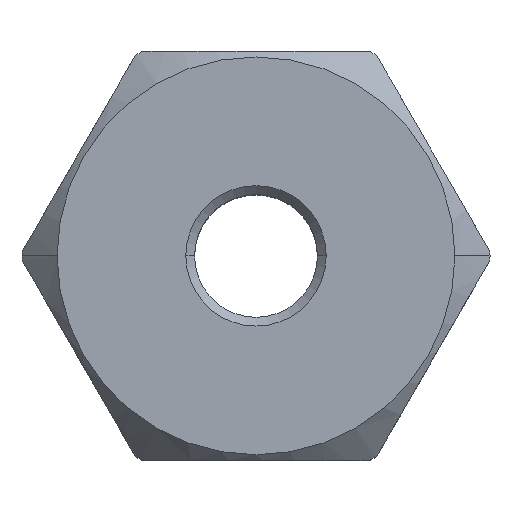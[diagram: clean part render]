
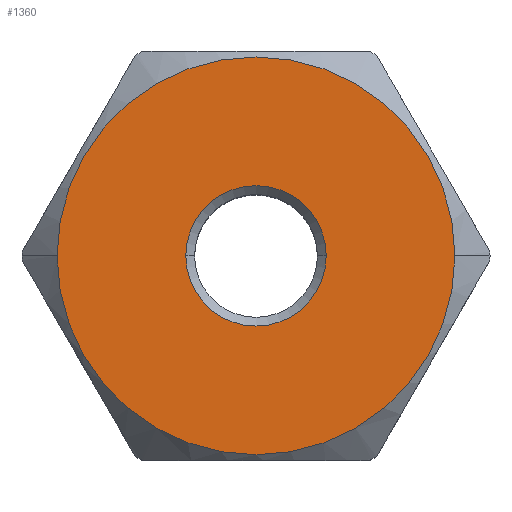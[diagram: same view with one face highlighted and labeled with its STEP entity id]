
A CAD part, top view. The second image highlights one B-rep face of the part: STEP entity #1360.
In plain terms, the highlighted planar face has unit normal (0, 0, 1).
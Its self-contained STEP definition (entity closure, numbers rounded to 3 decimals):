
#46 = VERTEX_POINT ( 'NONE', #1414 ) ;
#141 = FACE_BOUND ( 'NONE', #1717, .T. ) ;
#283 = VERTEX_POINT ( 'NONE', #2344 ) ;
#365 = DIRECTION ( 'NONE',  ( 0., 0., -1. ) ) ;
#366 = DIRECTION ( 'NONE',  ( 0., 0., 1. ) ) ;
#506 = VERTEX_POINT ( 'NONE', #844 ) ;
#705 = CIRCLE ( 'NONE', #793, 6.8 ) ;
#717 = AXIS2_PLACEMENT_3D ( 'NONE', #1752, #365, #2375 ) ;
#731 = CARTESIAN_POINT ( 'NONE',  ( 0., 0., 0. ) ) ;
#746 = FACE_OUTER_BOUND ( 'NONE', #898, .T. ) ;
#793 = AXIS2_PLACEMENT_3D ( 'NONE', #2389, #2021, #819 ) ;
#819 = DIRECTION ( 'NONE',  ( 1., 0., 0. ) ) ;
#844 = CARTESIAN_POINT ( 'NONE',  ( 2.4, 0., 0. ) ) ;
#898 = EDGE_LOOP ( 'NONE', ( #1316, #1006 ) ) ;
#956 = DIRECTION ( 'NONE',  ( 0., 0., -1. ) ) ;
#970 = EDGE_CURVE ( 'NONE', #506, #1513, #2491, .T. ) ;
#1006 = ORIENTED_EDGE ( 'NONE', *, *, #2443, .T. ) ;
#1023 = AXIS2_PLACEMENT_3D ( 'NONE', #2541, #1565, #1928 ) ;
#1184 = DIRECTION ( 'NONE',  ( 1., 0., 0. ) ) ;
#1260 = CIRCLE ( 'NONE', #1353, 2.4 ) ;
#1316 = ORIENTED_EDGE ( 'NONE', *, *, #2292, .T. ) ;
#1334 = PLANE ( 'NONE',  #1023 ) ;
#1353 = AXIS2_PLACEMENT_3D ( 'NONE', #731, #956, #1534 ) ;
#1360 = ADVANCED_FACE ( 'NONE', ( #141, #746 ), #1334, .T. ) ;
#1363 = EDGE_CURVE ( 'NONE', #1513, #506, #1260, .T. ) ;
#1414 = CARTESIAN_POINT ( 'NONE',  ( -6.8, 0., 0. ) ) ;
#1450 = ORIENTED_EDGE ( 'NONE', *, *, #970, .T. ) ;
#1513 = VERTEX_POINT ( 'NONE', #1764 ) ;
#1534 = DIRECTION ( 'NONE',  ( 1., 0., 0. ) ) ;
#1565 = DIRECTION ( 'NONE',  ( 0., 0., 1. ) ) ;
#1717 = EDGE_LOOP ( 'NONE', ( #1450, #2515 ) ) ;
#1752 = CARTESIAN_POINT ( 'NONE',  ( 0., 0., 0. ) ) ;
#1764 = CARTESIAN_POINT ( 'NONE',  ( -2.4, 0., 0. ) ) ;
#1928 = DIRECTION ( 'NONE',  ( 1., 0., 0. ) ) ;
#2021 = DIRECTION ( 'NONE',  ( 0., 0., 1. ) ) ;
#2022 = AXIS2_PLACEMENT_3D ( 'NONE', #2190, #366, #1184 ) ;
#2190 = CARTESIAN_POINT ( 'NONE',  ( 0., 0., 0. ) ) ;
#2292 = EDGE_CURVE ( 'NONE', #46, #283, #2566, .T. ) ;
#2344 = CARTESIAN_POINT ( 'NONE',  ( 6.8, 0., 0. ) ) ;
#2375 = DIRECTION ( 'NONE',  ( 1., 0., 0. ) ) ;
#2389 = CARTESIAN_POINT ( 'NONE',  ( 0., 0., 0. ) ) ;
#2443 = EDGE_CURVE ( 'NONE', #283, #46, #705, .T. ) ;
#2491 = CIRCLE ( 'NONE', #717, 2.4 ) ;
#2515 = ORIENTED_EDGE ( 'NONE', *, *, #1363, .T. ) ;
#2541 = CARTESIAN_POINT ( 'NONE',  ( 0., 0., 0. ) ) ;
#2566 = CIRCLE ( 'NONE', #2022, 6.8 ) ;
